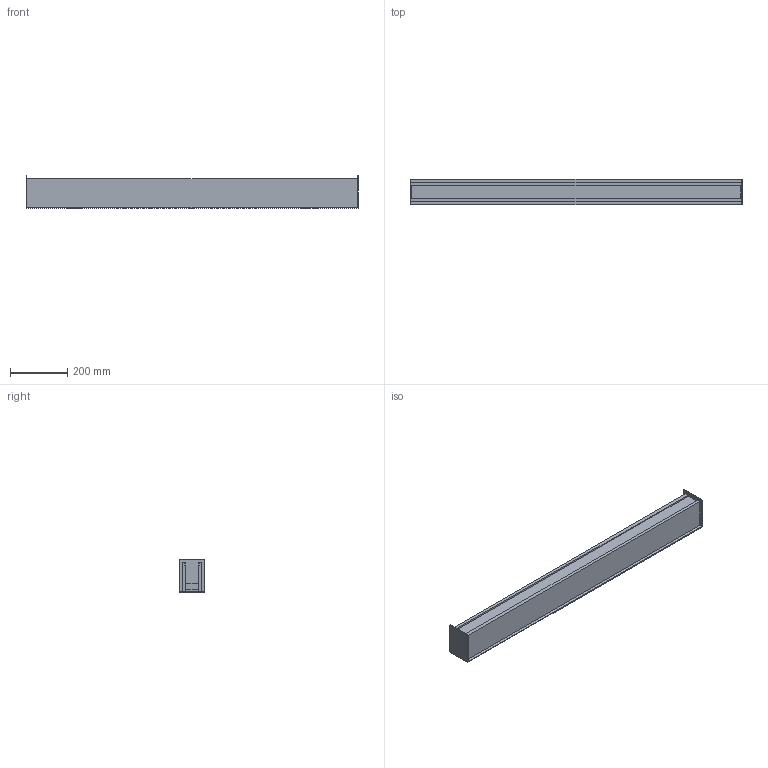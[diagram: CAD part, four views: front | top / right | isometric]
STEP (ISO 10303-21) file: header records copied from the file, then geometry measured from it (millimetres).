
FILE_DESCRIPTION (( 'STEP AP203' ), '1' );
FILE_NAME ('Belka natynkowa 1160mm.STEP', '2020-07-12T21:24:17', ( '' ), ( '' ), 'SwSTEP 2.0', 'SolidWorks 2012', '' );
FILE_SCHEMA (( 'CONFIG_CONTROL_DESIGN' ));
Length unit declared in the file: millimetre
Products named in the file (1): Belka natynkowa 1160mm
Bounding box: 1160 x 90 x 115 mm (x, y, z)
Volume: 3366425.9 mm3; surface area: 866350.3 mm2
Topology: 1 solids, 1 shells, 64 faces, 176 edges, 116 vertices
Faces by surface type: plane 52, cylinder 12
Entity records: 2105 total; most frequent: CARTESIAN_POINT 357, ORIENTED_EDGE 352, DIRECTION 330, EDGE_CURVE 176, LINE 152, VECTOR 152, VERTEX_POINT 116, AXIS2_PLACEMENT_3D 89
